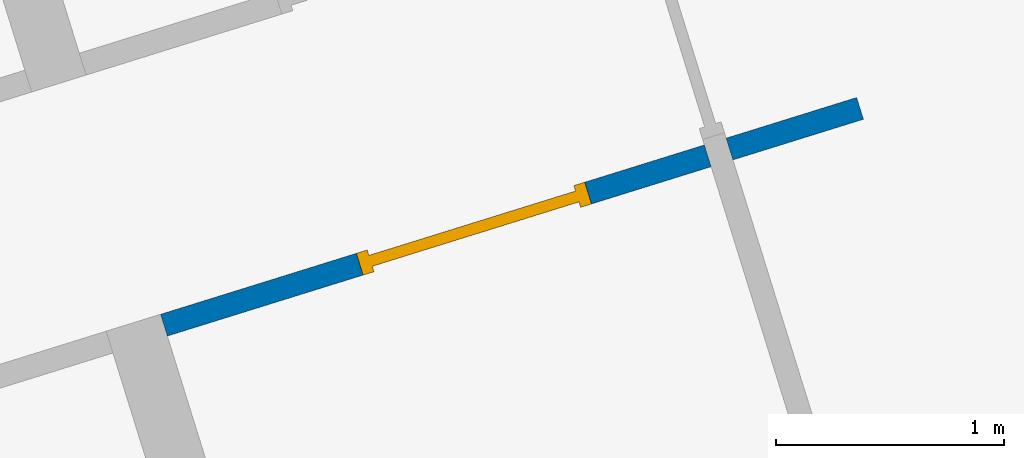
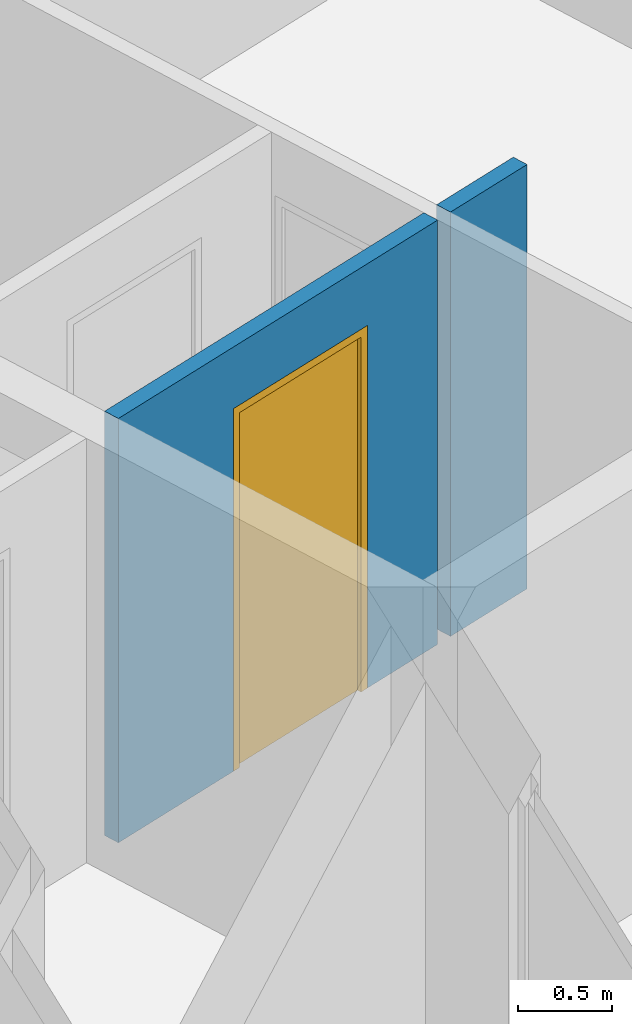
# One storey, part 9 of 9: 1 door, 1 wall, 2 openings.
"""IFC4 building model written with IfcOpenShell, lengths in metres."""

from ifc_helpers import new_model, entity, si_unit, converted_unit, direction, frame, origin, place, context, subcontext, project, spatial, indexed_curve, outline, extrude, polygons, source, transform, mapped, material, constituent, constituent_set, type_object, type_shapes, element, fill, save


model = new_model("IFC4")

# Units and contexts
model_context = context("Model", 3, precision=1e-05, world=origin(), true_north=direction((6.12323399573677e-17, 1.0)))
body_context = subcontext(model_context, "Body", "Model", "MODEL_VIEW")
ifc_project = project(units=[si_unit("LENGTHUNIT", "METRE"), si_unit("AREAUNIT", "SQUARE_METRE"), si_unit("VOLUMEUNIT", "CUBIC_METRE"), converted_unit("PLANEANGLEUNIT", "DEGREE", entity("IfcPlaneAngleMeasure", 0.0174532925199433), si_unit("PLANEANGLEUNIT", "RADIAN"), dimensions=[0, 0, 0, 0, 0, 0, 0])], contexts=[model_context])

# Site, building, storey
site_placement = place(None, frame((13.1347999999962, 11.9886000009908, 0.0), z_axis=(0.0, 0.0, 1.0), x_axis=(0.954770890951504, 0.297342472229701, 0.0)))
site = spatial("IfcSite", under=ifc_project, at=site_placement, Name="Schiehaven", CompositionType="ELEMENT")
building_placement = place(site_placement, origin())
building = spatial("IfcBuilding", under=site, at=building_placement, Name="VORM huis", CompositionType="ELEMENT")
storey_placement = place(building_placement, frame((0.0, 0.0, 24.9)))
storey = spatial("IfcBuildingStorey", under=building, at=storey_placement, Name="08 achtste verdieping", CompositionType="ELEMENT", Elevation=24.9)

# Wall, openings, door
ifc_material_1 = material(Name="ntb_ntb_ntb", Category="Miscellaneous")
wall_type = type_object("IfcWallType", Name="Basic Wall:22_WA_afbouw_binnenwand 100mm_gen", PredefinedType="STANDARD")
wall_placement = place(storey_placement, frame((20.1250000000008, 24.5750000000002, 0.0)))
wall = element("IfcWall", 1, at=wall_placement, inside=storey, type_object=wall_type, material=ifc_material_1, Name="Binnenwand", ObjectType="Wand", PredefinedType="NOTDEFINED", context=body_context, shape_type="Tessellation", body=[
    polygons([(3.45443588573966e-16, -0.0499999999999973, 2.75), (3.45443588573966e-16, -0.0499999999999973, 0.0), (0.899999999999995, -0.049999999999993, 0.0), (0.899999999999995, -0.049999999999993, 2.34999999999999), (1.94999999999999, -0.0499999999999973, 2.34999999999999), (1.95, -0.0499999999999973, 0.0), (2.50000000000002, -0.049999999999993, 0.0), (2.50000000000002, -0.049999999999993, 2.75), (-1.52526066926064e-15, 0.0500000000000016, 0.0), (0.899999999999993, 0.050000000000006, 0.0), (-1.52526066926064e-15, 0.0500000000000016, 2.75), (1.94999999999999, 0.0500000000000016, 2.34999999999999), (1.95, 0.0500000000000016, 0.0), (0.899999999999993, 0.050000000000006, 2.34999999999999), (2.50000000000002, 0.050000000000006, 0.0), (2.50000000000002, 0.050000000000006, 2.75)], [[[1, 2, 3, 4, 5, 6, 7, 8]], [[2, 9, 10, 3]], [[2, 1, 11, 9]], [[6, 5, 12, 13]], [[4, 3, 10, 14]], [[5, 4, 14, 12]], [[8, 7, 15, 16]], [[11, 1, 8, 16]], [[6, 13, 15, 7]], [[9, 11, 16, 15, 13, 12, 14, 10]]], closed=True),
    polygons([(3.2, 0.050000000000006, 2.75), (3.2, 0.050000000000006, 0.0), (2.60000000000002, 0.0500000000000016, 0.0), (2.60000000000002, 0.0500000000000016, 2.75), (3.2, -0.049999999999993, 2.75), (3.2, -0.049999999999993, 0.0), (2.60000000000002, -0.0499999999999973, 2.75), (2.60000000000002, -0.0499999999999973, 0.0)], [[[1, 2, 3, 4]], [[5, 6, 2, 1]], [[5, 1, 4, 7]], [[8, 7, 4, 3]], [[2, 6, 8, 3]], [[6, 5, 7, 8]]], closed=True),
])
opening_1_placement = place(storey_placement, frame((20.1250000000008, 24.5750000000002, 0.0)))
element("IfcOpeningElement", 2, at=opening_1_placement, cuts=wall, Name="Binnenwand:1", PredefinedType="OPENING", context=body_context, shape_type="SweptSolid", body=[
    extrude(outline(indexed_curve([(-1.375, -0.0499999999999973), (1.375, -0.0499999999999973), (1.375, 0.0500000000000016), (-1.375, 0.0500000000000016), (-1.375, -0.0499999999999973)], self_intersect=False)), frame((2.50000000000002, 0.0, 1.375), z_axis=(1.0, 0.0, 0.0), x_axis=(0.0, 0.0, -1.0)), (0.0, 0.0, 1.0), 0.0999999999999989),
])
opening_2_placement = place(wall_placement, frame((0.899999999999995, -0.050000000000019, 0.0)))
opening_2 = element("IfcOpeningElement", 3, at=opening_2_placement, cuts=wall, Name="Binnendeur", PredefinedType="OPENING", context=body_context, shape_type="SweptSolid", body=[
    extrude(outline(indexed_curve([(2.34999999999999, 1.05), (0.0, 1.05), (0.0, 0.0), (2.34999999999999, 0.0), (2.34999999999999, 1.05)], self_intersect=False)), frame((0.0, 0.0, 0.0), z_axis=(0.0, 1.0, 0.0), x_axis=(0.0, 0.0, 1.0)), (0.0, 0.0, 1.0), 0.1),
])
ifc_material_2 = material(Name="PD_a_binnenwandopeningen", Category="Miscellaneous")
ifc_constituent_1 = constituent(ifc_material_2, Name="PD_a_binnenwandopeningen", Category="Miscellaneous")
ifc_material_3 = material(Name="metaal_aluminium_ntb", Category="Miscellaneous")
ifc_constituent_2 = constituent(ifc_material_3, Name="metaal_aluminium_ntb", Category="Miscellaneous")
ifc_constituent_set = constituent_set(constituents=[ifc_constituent_1, ifc_constituent_2])
door_type = type_object("IfcDoorType", Name="32_DO_binnendeur enkel:binnendeur", OperationType="REVOLVING", PredefinedType="DOOR")
shared_shape = source(origin(), body_context, "Body", "SweptSolid", [
    extrude(outline(indexed_curve([(-1.16249999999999, -0.525000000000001), (1.18749999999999, -0.525), (1.18749999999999, 0.525), (-1.16249999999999, 0.525), (-1.16249999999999, 0.475), (1.13749999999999, 0.475), (1.13749999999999, -0.475), (-1.16249999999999, -0.475), (-1.16249999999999, -0.525000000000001)], self_intersect=False)), frame((0.525000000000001, 0.0, 1.16249999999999), z_axis=(0.0, 1.0, 0.0), x_axis=(0.0, 0.0, 1.0)), (0.0, 0.0, 1.0), 0.1),
    extrude(outline(indexed_curve([(-0.025, -0.475), (0.025, -0.475), (0.025, 0.475), (-0.025, 0.475), (-0.025, -0.475)], self_intersect=False)), frame((0.525000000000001, 0.0499999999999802, 0.0), z_axis=(0.0, 0.0, 1.0), x_axis=(0.0, 1.0, 0.0)), (0.0, 0.0, 1.0), 2.29999999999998),
])
type_shapes(door_type, [shared_shape])
door_placement = place(opening_2_placement, origin())
door = element("IfcDoor", 4, at=door_placement, inside=storey, type_object=door_type, material=ifc_constituent_set, Name="Binnendeur", ObjectType="Deur", OperationType="REVOLVING", OverallHeight=2.34999999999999, OverallWidth=1.05, PredefinedType="DOOR", context=body_context, shape_type="MappedRepresentation", body=[
    mapped(shared_shape, transform((0.0, 0.0, 0.0), scale=1.0)),
])
fill(opening_2, door)

save(model, "model.ifc")
